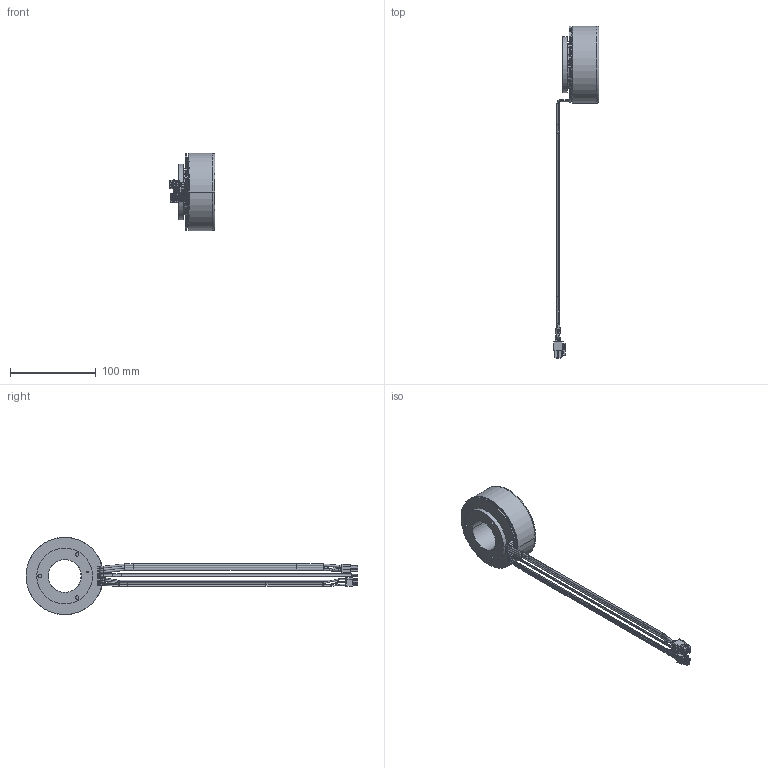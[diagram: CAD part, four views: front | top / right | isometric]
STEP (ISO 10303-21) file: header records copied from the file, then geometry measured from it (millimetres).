
FILE_DESCRIPTION((''),'2;1');
FILE_NAME('581294','2017-02-17T',('mmagpetk'),(''),'CREO PARAMETRIC BY PTC INC, 2016050','CREO PARAMETRIC BY PTC INC, 2016050','');
FILE_SCHEMA(('CONFIG_CONTROL_DESIGN'));
Length unit declared in the file: millimetre
Products named in the file (1): 581294
Bounding box: 53.3 x 386.1 x 90 mm (x, y, z)
Volume: 165376.6 mm3; surface area: 115481.5 mm2
Topology: 10 solids, 10 shells, 2444 faces, 6328 edges, 3913 vertices
Faces by surface type: plane 1126, cylinder 1032, torus 182, bspline 72, cone 28, sphere 4
Entity records: 130425 total; most frequent: CARTESIAN_POINT 33634, DIRECTION 12938, ORIENTED_EDGE 12648, PRESENTATION_STYLE_ASSIGNMENT 8473, STYLED_ITEM 6334, CURVE_STYLE 6324, EDGE_CURVE 6324, AXIS2_PLACEMENT_3D 4578
